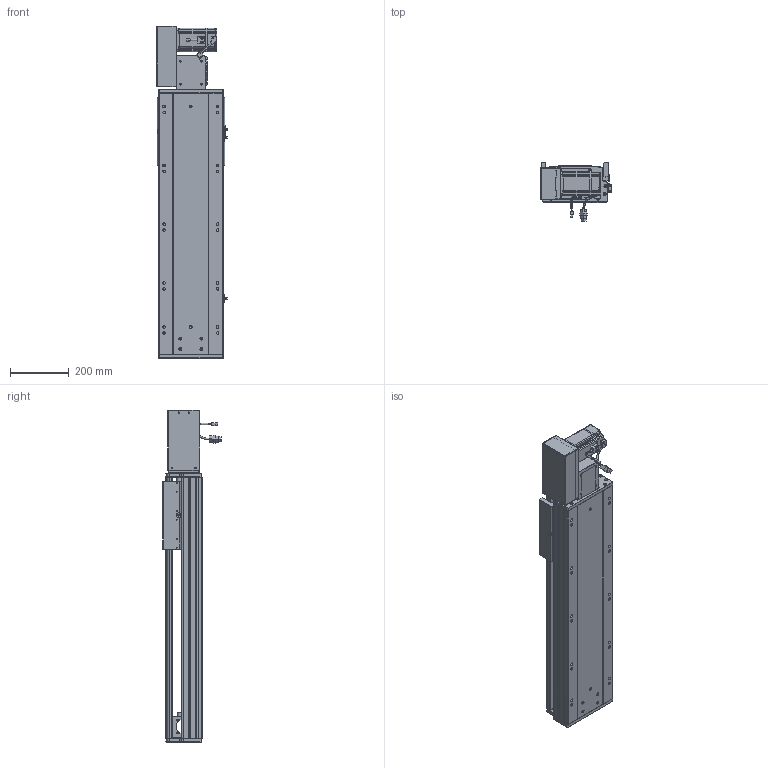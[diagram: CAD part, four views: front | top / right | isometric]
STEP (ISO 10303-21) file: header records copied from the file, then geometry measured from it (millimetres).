
FILE_DESCRIPTION (( 'STEP AP203' ), '1' );
FILE_NAME ('RY220-T-300-LK.SLDASM_550.step', '2022-07-25T08:13:18', ( '' ), ( '' ), 'SwSTEP 2.0', 'SolidWorks 2016', '' );
FILE_SCHEMA (( 'CONFIG_CONTROL_DESIGN' ));
Length unit declared in the file: millimetre
Products named in the file (14): RY220-T-蛌殏萇儂假蚾啣(750W); RY220圉猾敕々湍臏賑輸; RY220翋肮祭謫裔啣; 110A-T-肮祭謫釱傷裔; 滅袉蝶18-15; RY220-T菁釱-300_550; 怢湛750W_ECMA-CX0807ES; RY220-俋离672覜茼んえ; RY220-T-300-LK.SLDASM_550; 覜茼ん672; RY220-T-300-奻裔啣_550; RY220-同步轮副支撑座6304×2; RY220翋肮祭謫釱; RY220-T-湍謫欶(鍼踢)
Assembly tree (18 placements, depth 2):
  RY220-T-300-LK.SLDASM_550
    RY220-T菁釱-300_550
    RY220翋肮祭謫釱
    覜茼ん672  x3
    RY220圉猾敕々湍臏賑輸
    RY220-T-300-奻裔啣_550
    RY220-俋离672覜茼んえ
    滅袉蝶18-15  x3
    RY220翋肮祭謫裔啣  x2
    110A-T-肮祭謫釱傷裔
    怢湛750W_ECMA-CX0807ES
    RY220-T-湍謫欶(鍼踢)
    RY220-T-蛌殏萇儂假蚾啣(750W)
    RY220-同步轮副支撑座6304×2
Bounding box: 239.7 x 198.77 x 1129 mm (x, y, z)
Volume: 9348455 mm3; surface area: 2630903.5 mm2
Topology: 19 solids, 19 shells, 2532 faces, 6979 edges, 4446 vertices
Faces by surface type: cylinder 1164, plane 1069, cone 217, bspline 56, sphere 16, torus 10
Entity records: 84147 total; most frequent: CARTESIAN_POINT 24089, ORIENTED_EDGE 12506, DIRECTION 11732, EDGE_CURVE 6253, AXIS2_PLACEMENT_3D 4118, VERTEX_POINT 4070, VECTOR 3496, LINE 3496
